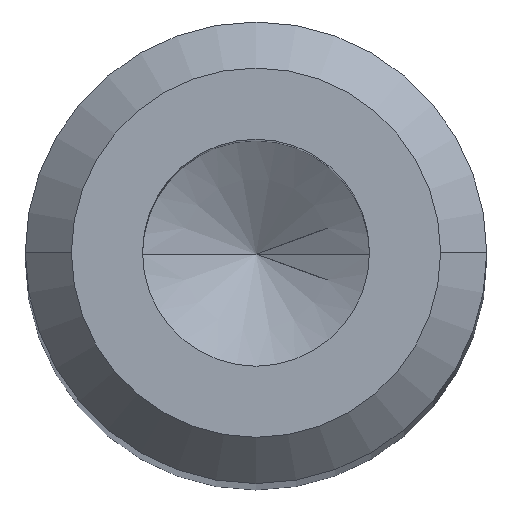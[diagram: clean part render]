
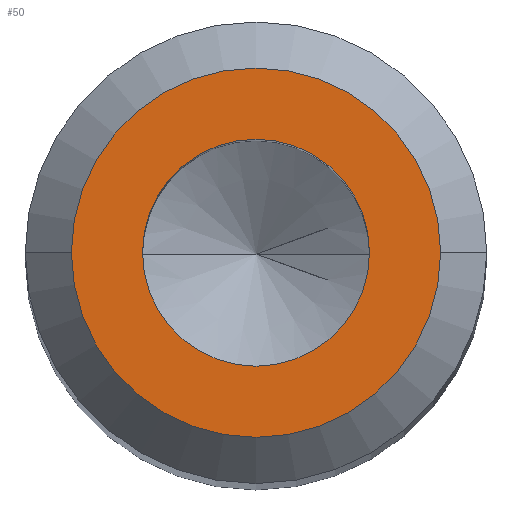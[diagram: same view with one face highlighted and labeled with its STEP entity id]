
A CAD part, top view. The second image highlights one B-rep face of the part: STEP entity #50.
In plain terms, the highlighted planar face has unit normal (0, 0, 1).
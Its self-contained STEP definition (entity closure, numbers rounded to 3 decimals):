
#7 = CARTESIAN_POINT ( 'NONE',  ( 0., 0., 20.5 ) ) ;
#8 = ORIENTED_EDGE ( 'NONE', *, *, #347, .F. ) ;
#10 = DIRECTION ( 'NONE',  ( 0., 0., 1. ) ) ;
#12 = CARTESIAN_POINT ( 'NONE',  ( 0., 0., 20.5 ) ) ;
#13 = DIRECTION ( 'NONE',  ( 1., 0., 0. ) ) ;
#21 = CARTESIAN_POINT ( 'NONE',  ( 0., 0., 20.5 ) ) ;
#23 = AXIS2_PLACEMENT_3D ( 'NONE', #7, #305, #98 ) ;
#28 = EDGE_CURVE ( 'NONE', #188, #59, #69, .T. ) ;
#37 = CARTESIAN_POINT ( 'NONE',  ( -1.229, 0., 20.5 ) ) ;
#49 = CIRCLE ( 'NONE', #149, 2. ) ;
#50 = ADVANCED_FACE ( 'NONE', ( #97, #70 ), #323, .T. ) ;
#56 = CARTESIAN_POINT ( 'NONE',  ( 0., 0., 20.5 ) ) ;
#57 = CARTESIAN_POINT ( 'NONE',  ( 2., 0., 20.5 ) ) ;
#59 = VERTEX_POINT ( 'NONE', #191 ) ;
#69 = CIRCLE ( 'NONE', #23, 1.229 ) ;
#70 = FACE_BOUND ( 'NONE', #137, .T. ) ;
#72 = DIRECTION ( 'NONE',  ( 0., 0., 1. ) ) ;
#90 = VERTEX_POINT ( 'NONE', #294 ) ;
#96 = EDGE_LOOP ( 'NONE', ( #111, #290 ) ) ;
#97 = FACE_OUTER_BOUND ( 'NONE', #96, .T. ) ;
#98 = DIRECTION ( 'NONE',  ( 1., 0., 0. ) ) ;
#111 = ORIENTED_EDGE ( 'NONE', *, *, #181, .T. ) ;
#122 = CARTESIAN_POINT ( 'NONE',  ( 0., 0., 20.5 ) ) ;
#137 = EDGE_LOOP ( 'NONE', ( #8, #210 ) ) ;
#149 = AXIS2_PLACEMENT_3D ( 'NONE', #56, #328, #302 ) ;
#152 = CIRCLE ( 'NONE', #229, 2. ) ;
#177 = AXIS2_PLACEMENT_3D ( 'NONE', #12, #320, #288 ) ;
#181 = EDGE_CURVE ( 'NONE', #90, #223, #152, .T. ) ;
#188 = VERTEX_POINT ( 'NONE', #37 ) ;
#191 = CARTESIAN_POINT ( 'NONE',  ( 1.229, 0., 20.5 ) ) ;
#210 = ORIENTED_EDGE ( 'NONE', *, *, #28, .F. ) ;
#223 = VERTEX_POINT ( 'NONE', #57 ) ;
#229 = AXIS2_PLACEMENT_3D ( 'NONE', #122, #72, #13 ) ;
#288 = DIRECTION ( 'NONE',  ( 1., 0., 0. ) ) ;
#290 = ORIENTED_EDGE ( 'NONE', *, *, #360, .T. ) ;
#294 = CARTESIAN_POINT ( 'NONE',  ( -2., 0., 20.5 ) ) ;
#302 = DIRECTION ( 'NONE',  ( 1., 0., 0. ) ) ;
#305 = DIRECTION ( 'NONE',  ( 0., 0., 1. ) ) ;
#320 = DIRECTION ( 'NONE',  ( 0., 0., 1. ) ) ;
#323 = PLANE ( 'NONE',  #177 ) ;
#328 = DIRECTION ( 'NONE',  ( 0., 0., 1. ) ) ;
#347 = EDGE_CURVE ( 'NONE', #59, #188, #358, .T. ) ;
#351 = DIRECTION ( 'NONE',  ( 1., 0., 0. ) ) ;
#357 = AXIS2_PLACEMENT_3D ( 'NONE', #21, #10, #351 ) ;
#358 = CIRCLE ( 'NONE', #357, 1.229 ) ;
#360 = EDGE_CURVE ( 'NONE', #223, #90, #49, .T. ) ;
